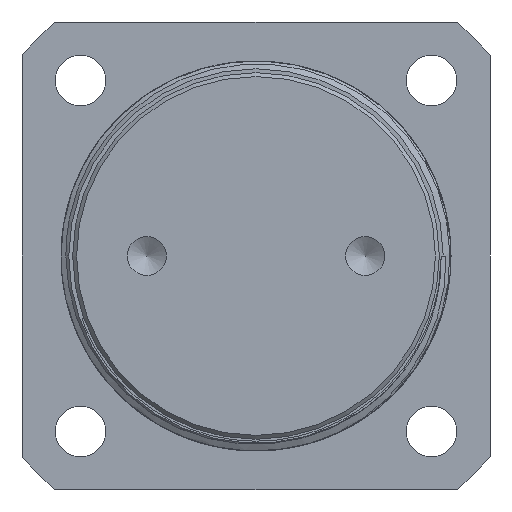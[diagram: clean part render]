
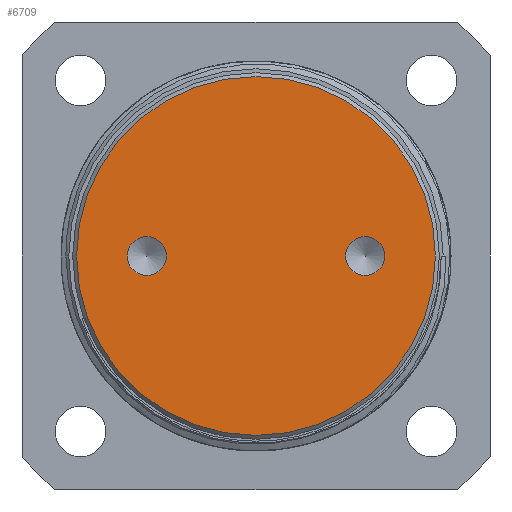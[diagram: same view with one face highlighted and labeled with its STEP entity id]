
A CAD part, front view. The second image highlights one B-rep face of the part: STEP entity #6709.
In plain terms, the highlighted planar face has unit normal (0, -1, 0).
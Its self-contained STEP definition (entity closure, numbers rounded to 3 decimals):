
#224=FACE_BOUND('',#884,.T.);
#225=FACE_BOUND('',#885,.T.);
#286=PLANE('',#7267);
#507=FACE_OUTER_BOUND('',#883,.T.);
#883=EDGE_LOOP('',(#4741,#4742));
#884=EDGE_LOOP('',(#4743));
#885=EDGE_LOOP('',(#4744,#4745));
#1257=CIRCLE('',#7268,23.);
#1258=CIRCLE('',#7269,23.);
#1259=CIRCLE('',#7270,2.5);
#1260=CIRCLE('',#7271,2.5);
#1261=CIRCLE('',#7272,2.5);
#2848=VERTEX_POINT('',#22164);
#2849=VERTEX_POINT('',#22165);
#2850=VERTEX_POINT('',#22168);
#2851=VERTEX_POINT('',#22170);
#2852=VERTEX_POINT('',#22171);
#3631=EDGE_CURVE('',#2848,#2849,#1257,.T.);
#3632=EDGE_CURVE('',#2849,#2848,#1258,.T.);
#3633=EDGE_CURVE('',#2850,#2850,#1259,.T.);
#3634=EDGE_CURVE('',#2851,#2852,#1260,.T.);
#3635=EDGE_CURVE('',#2852,#2851,#1261,.T.);
#4741=ORIENTED_EDGE('',*,*,#3631,.T.);
#4742=ORIENTED_EDGE('',*,*,#3632,.T.);
#4743=ORIENTED_EDGE('',*,*,#3633,.T.);
#4744=ORIENTED_EDGE('',*,*,#3634,.F.);
#4745=ORIENTED_EDGE('',*,*,#3635,.F.);
#6709=ADVANCED_FACE('',(#507,#224,#225),#286,.F.);
#7267=AXIS2_PLACEMENT_3D('',#22163,#8078,#8079);
#7268=AXIS2_PLACEMENT_3D('',#22166,#8080,#8081);
#7269=AXIS2_PLACEMENT_3D('',#22167,#8082,#8083);
#7270=AXIS2_PLACEMENT_3D('',#22169,#8084,#8085);
#7271=AXIS2_PLACEMENT_3D('',#22172,#8086,#8087);
#7272=AXIS2_PLACEMENT_3D('',#22173,#8088,#8089);
#8078=DIRECTION('center_axis',(0.,1.,0.));
#8079=DIRECTION('ref_axis',(1.,0.,0.));
#8080=DIRECTION('center_axis',(0.,-1.,0.));
#8081=DIRECTION('ref_axis',(-1.,0.,0.));
#8082=DIRECTION('center_axis',(0.,-1.,0.));
#8083=DIRECTION('ref_axis',(-1.,0.,0.));
#8084=DIRECTION('center_axis',(0.,1.,0.));
#8085=DIRECTION('ref_axis',(1.,0.,0.));
#8086=DIRECTION('center_axis',(0.,-1.,0.));
#8087=DIRECTION('ref_axis',(-1.,0.,0.));
#8088=DIRECTION('center_axis',(0.,-1.,0.));
#8089=DIRECTION('ref_axis',(-1.,0.,0.));
#22163=CARTESIAN_POINT('Origin',(0.,0.,0.));
#22164=CARTESIAN_POINT('',(23.,0.,0.));
#22165=CARTESIAN_POINT('',(-23.,0.,0.));
#22166=CARTESIAN_POINT('Origin',(0.,0.,0.));
#22167=CARTESIAN_POINT('Origin',(0.,0.,0.));
#22168=CARTESIAN_POINT('',(11.5,0.,0.));
#22169=CARTESIAN_POINT('Origin',(14.,0.,0.));
#22170=CARTESIAN_POINT('',(-16.5,0.,0.));
#22171=CARTESIAN_POINT('',(-11.5,0.,0.));
#22172=CARTESIAN_POINT('Origin',(-14.,0.,0.));
#22173=CARTESIAN_POINT('Origin',(-14.,0.,0.));
